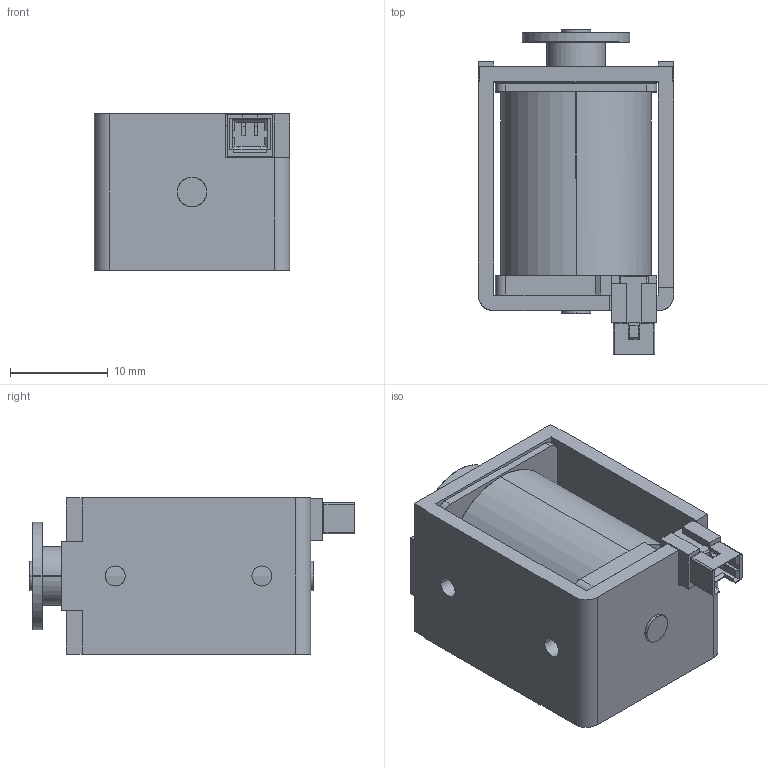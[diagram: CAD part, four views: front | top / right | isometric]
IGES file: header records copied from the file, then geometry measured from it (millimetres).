
Start section: SolidWorks IGES file using analytic representation for surfaces
Global section: file name: L:\カタログ\web用3Dデータ\CFB0625\3D_CFB0625\w_cfb0625.IGS; native system: SolidWorks 2014; preprocessor: SolidWorks 2014; author: jiba; date: 140728.140134; units: millimetre
Bounding box: 20 x 33.3 x 16 mm (x, y, z)
Surface area: 5422.5 mm2 (no closed solid volume)
Topology: 0 solids, 0 shells, 240 faces, 2300 edges, 2300 vertices
Faces by surface type: bspline 186, revolution 54
